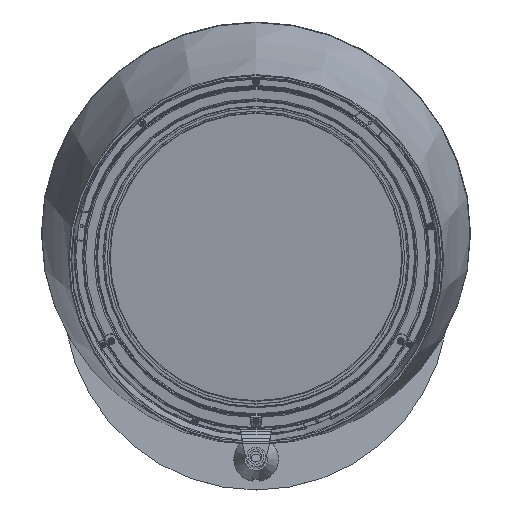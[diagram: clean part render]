
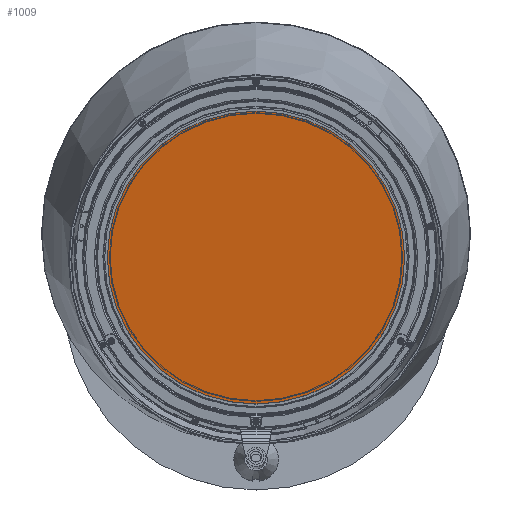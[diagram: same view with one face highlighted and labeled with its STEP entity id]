
A CAD part, top view. The second image highlights one B-rep face of the part: STEP entity #1009.
In plain terms, the highlighted planar face has unit normal (0, -0.174, 0.985) as drawn and (0, 0, 1) by its records, which use the part's own axes.
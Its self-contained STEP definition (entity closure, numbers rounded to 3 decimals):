
#1009 = ADVANCED_FACE( '', ( #2147 ), #2148, .F. );
#2147 = FACE_OUTER_BOUND( '', #3716, .T. );
#2148 = PLANE( '', #3717 );
#3716 = EDGE_LOOP( '', ( #8822 ) );
#3717 = AXIS2_PLACEMENT_3D( '', #8823, #8824, #8825 );
#8822 = ORIENTED_EDGE( '', *, *, #12345, .F. );
#8823 = CARTESIAN_POINT( '', ( 0., 0., 3.9 ) );
#8824 = DIRECTION( '', ( 0., 0., -1. ) );
#8825 = DIRECTION( '', ( -1., 0., 0. ) );
#12345 = EDGE_CURVE( '', #13808, #13808, #13809, .T. );
#13808 = VERTEX_POINT( '', #15837 );
#13809 = CIRCLE( '', #15838, 196.5 );
#15837 = CARTESIAN_POINT( '', ( 0., -196.5, 3.9 ) );
#15838 = AXIS2_PLACEMENT_3D( '', #19927, #19928, #19929 );
#19927 = CARTESIAN_POINT( '', ( 0., 0., 3.9 ) );
#19928 = DIRECTION( '', ( 0., 0., -1. ) );
#19929 = DIRECTION( '', ( 0., -1., 0. ) );
